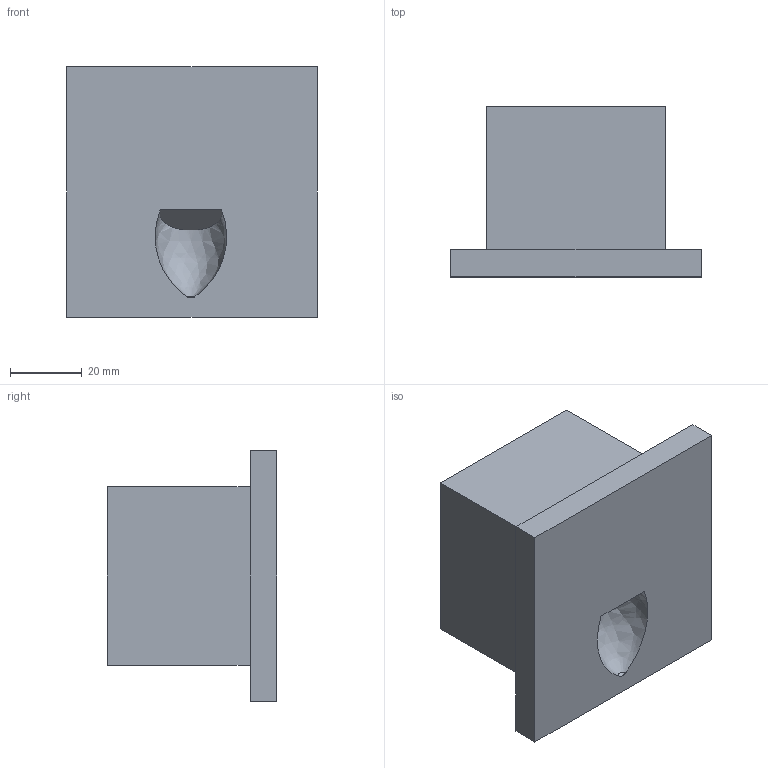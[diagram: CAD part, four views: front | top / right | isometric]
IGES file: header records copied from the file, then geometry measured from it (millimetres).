
Start section: SolidWorks IGES file using analytic representation for surfaces
Global section: file name: C:\Users\danielet\Desktop\3D CARLOS\VIRGO-E2064-3D\VIRGO-E2064-3D.IGS; native system: SolidWorks 2018; preprocessor: SolidWorks 2018; author: danielet; date: 220125.143751; units: millimetre
Bounding box: 70 x 47.5 x 70 mm (x, y, z)
Surface area: 25991.1 mm2 (no closed solid volume)
Topology: 0 solids, 0 shells, 20 faces, 148 edges, 147 vertices
Faces by surface type: bspline 19, revolution 1
